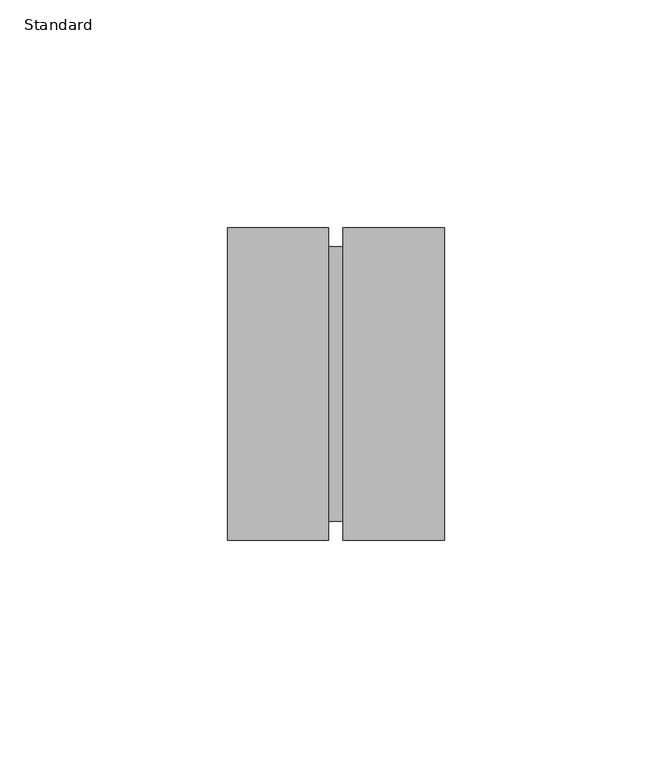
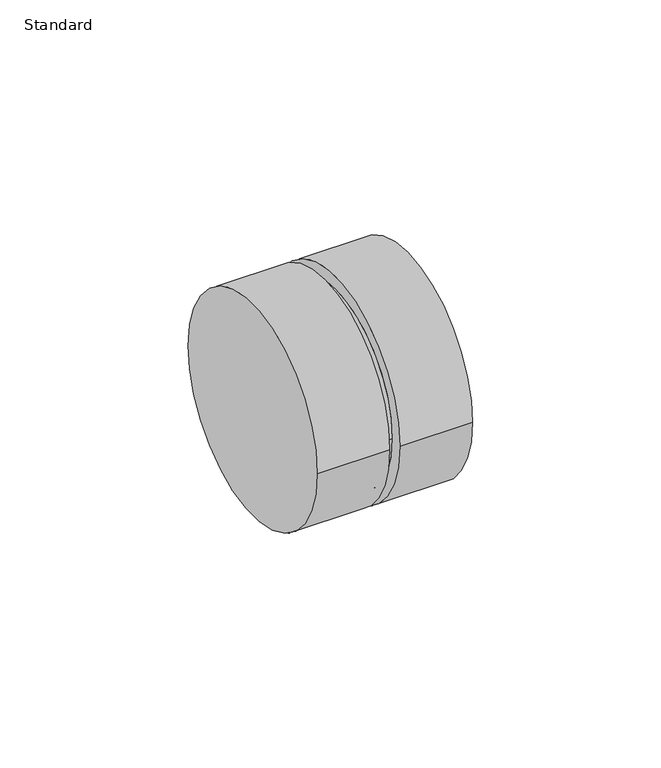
"""IFC4 building model written with IfcOpenShell, lengths in millimetres: pipe fitting geometry, Cople_Lubrizol_CPVC_FlowGuard_MX : Standard."""

from ifc_helpers import new_model, si_unit, frame, origin, place, context, project, spatial, circle_curve, source, transform, mapped, element, save
from ifc_brep_helpers import plane_surface, cylinder_surface, advanced_brep


def standard_35c33311(model_context):
    return source(origin(), model_context, "Body", "AdvancedBrep", [
        advanced_brep(
        [(-23.8125, -34.3154, 0.0), (-23.8125, 34.3154, 0.0), (-1.5875, -34.3154, 0.0), (-1.5875, 34.3154, 0.0), (-1.5875, -30.1625, 0.0), (-1.5875, 30.1625, 0.0), (1.5875, -30.1625, 0.0), (1.5875, 30.1625, 0.0), (1.5875, -34.3154, 0.0), (1.5875, 34.3154, 0.0), (23.8125, -34.3154, 0.0), (23.8125, 34.3154, 0.0)],
        [
            (0, 1, circle_curve(frame((-23.8125, 0.0, 0.0), z_axis=(-1.0, 0.0, 0.0), x_axis=(0.0, 1.0, 0.0)), 34.3154)),
            (1, 0, circle_curve(frame((-23.8125, 0.0, 0.0), z_axis=(-1.0, 0.0, 0.0), x_axis=(0.0, 1.0, 0.0)), 34.3154)),
            (2, 3, circle_curve(frame((-1.5875, 0.0, 0.0), z_axis=(1.0, 0.0, 0.0), x_axis=(0.0, 1.0, 0.0)), 34.3154)),
            (3, 2, circle_curve(frame((-1.5875, 0.0, 0.0), z_axis=(1.0, 0.0, 0.0), x_axis=(0.0, 1.0, 0.0)), 34.3154)),
            (4, 5, circle_curve(frame((-1.5875, 0.0, 0.0), z_axis=(-1.0, 0.0, 0.0), x_axis=(0.0, 1.0, 0.0)), 30.1625)),
            (5, 4, circle_curve(frame((-1.5875, 0.0, 0.0), z_axis=(-1.0, 0.0, 0.0), x_axis=(0.0, 1.0, 0.0)), 30.1625)),
            (0, 2),
            (3, 1),
            (4, 6),
            (6, 7, circle_curve(frame((1.5875, 0.0, 0.0), z_axis=(-1.0, 0.0, 0.0), x_axis=(0.0, 1.0, 0.0)), 30.1625)),
            (7, 5),
            (7, 6, circle_curve(frame((1.5875, 0.0, 0.0), z_axis=(-1.0, 0.0, 0.0), x_axis=(0.0, 1.0, 0.0)), 30.1625)),
            (8, 9, circle_curve(frame((1.5875, 0.0, 0.0), z_axis=(-1.0, 0.0, 0.0), x_axis=(0.0, 1.0, 0.0)), 34.3154)),
            (9, 8, circle_curve(frame((1.5875, 0.0, 0.0), z_axis=(-1.0, 0.0, 0.0), x_axis=(0.0, 1.0, 0.0)), 34.3154)),
            (10, 11, circle_curve(frame((23.8125, 0.0, 0.0), z_axis=(1.0, 0.0, 0.0), x_axis=(0.0, 1.0, 0.0)), 34.3154)),
            (11, 10, circle_curve(frame((23.8125, 0.0, 0.0), z_axis=(1.0, 0.0, 0.0), x_axis=(0.0, 1.0, 0.0)), 34.3154)),
            (8, 10),
            (11, 9),
        ],
        [
            plane_surface(frame((-23.8125, 0.0, 0.0), z_axis=(-1.0, 0.0, 0.0), x_axis=(0.0, 0.0, 1.0))),
            plane_surface(frame((-1.5875, 0.0, 0.0), z_axis=(1.0, 0.0, 0.0), x_axis=(0.0, 0.0, 1.0))),
            cylinder_surface(frame((-23.8125, 0.0, 0.0), z_axis=(-1.0, 0.0, 0.0), x_axis=(0.0, 1.0, 0.0)), 34.3154),
            cylinder_surface(frame((-1.5875, 0.0, 0.0), z_axis=(-1.0, 0.0, 0.0), x_axis=(0.0, 1.0, 0.0)), 30.1625),
            plane_surface(frame((1.5875, 0.0, 0.0), z_axis=(-1.0, 0.0, 0.0), x_axis=(0.0, 0.0, 1.0))),
            plane_surface(frame((23.8125, 0.0, 0.0), z_axis=(1.0, 0.0, 0.0), x_axis=(0.0, 0.0, 1.0))),
            cylinder_surface(frame((1.5875, 0.0, 0.0), z_axis=(-1.0, 0.0, 0.0), x_axis=(0.0, 1.0, 0.0)), 34.3154),
        ],
        [
            (0, [[1, 2]]),
            (1, [[3, 4], [5, 6]]),
            (2, [[-1, 7, -4, 8]]),
            (2, [[-2, -8, -3, -7]]),
            (3, [[9, 10, 11, -5]]),
            (3, [[-9, -6, -11, 12]]),
            (4, [[13, 14], [-10, -12]]),
            (5, [[15, 16]]),
            (6, [[-13, 17, -16, 18]]),
            (6, [[-14, -18, -15, -17]]),
        ],
    ),
    ])


if __name__ == "__main__":
    model = new_model("IFC4")
    model_context = context("Model", 3, world=origin())
    ifc_project = project(units=[si_unit("LENGTHUNIT", "METRE", prefix="MILLI")], contexts=[model_context])
    site = spatial("IfcSite", under=ifc_project)
    building = spatial("IfcBuilding", under=site)
    placement = place(None, origin())
    standard_shape = standard_35c33311(model_context)
    element("IfcPipeFitting", 1, ObjectType="Cople_Lubrizol_CPVC_FlowGuard_MX : Standard", at=placement, inside=building, context=model_context, shape_type="MappedRepresentation", body=[
        mapped(standard_shape, transform((0.0, 0.0, 0.0), x_axis=(1.0, 0.0, 0.0), y_axis=(0.0, 1.0, 0.0), z_axis=(0.0, 0.0, 1.0))),
    ])
    save(model, "model.ifc")
